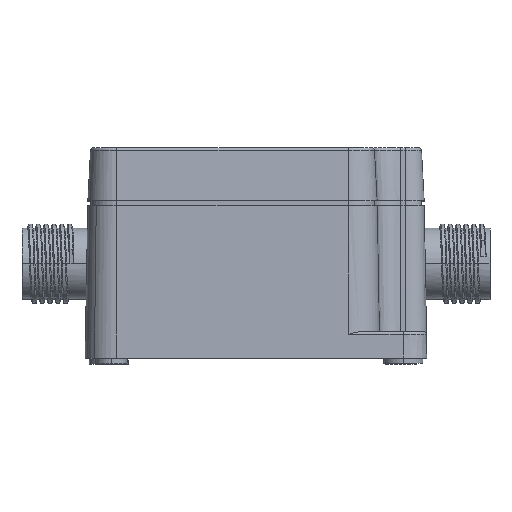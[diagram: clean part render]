
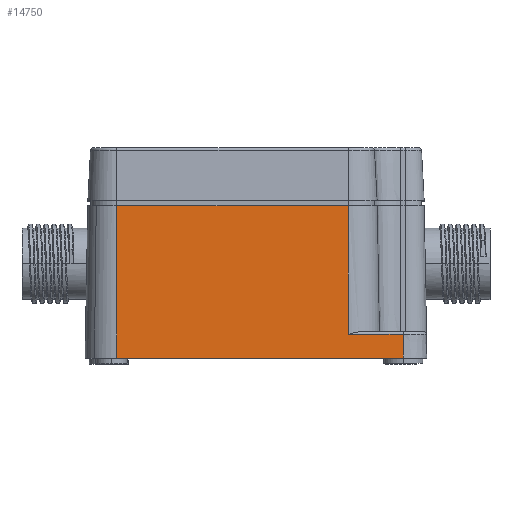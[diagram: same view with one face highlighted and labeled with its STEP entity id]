
A CAD part, top view. The second image highlights one B-rep face of the part: STEP entity #14750.
In plain terms, the highlighted planar face has unit normal (0, 0.018, 1).
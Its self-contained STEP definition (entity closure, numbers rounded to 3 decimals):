
#655 = DIRECTION ( 'PB1065',  ( 0., -1., 0.017 ) ) ;
#829 = DIRECTION ( 'PB1065',  ( 0., 1., -0.017 ) ) ;
#1027 = CARTESIAN_POINT ( 'PB1065',  ( -28., 0., 50. ) ) ;
#1202 = PLANE ( 'PB1065',  #10882 ) ;
#1782 = CARTESIAN_POINT ( 'PB1065',  ( 17.553, 4.509, 49.921 ) ) ;
#1830 = EDGE_LOOP ( 'PB1065', ( #17051, #18669, #12148, #11681, #12449, #18122 ) ) ;
#2747 = CARTESIAN_POINT ( 'PB1065',  ( 17.553, 30., 49.476 ) ) ;
#2912 = CARTESIAN_POINT ( 'PB1065',  ( 28., 30., 49.476 ) ) ;
#2923 = LINE ( 'PB1065', #7909, #5636 ) ;
#3677 = CARTESIAN_POINT ( 'PB1065',  ( -28., 29., 49.494 ) ) ;
#4261 = VECTOR ( 'PB1065', #829, 1000. ) ;
#5117 = VERTEX_POINT ( 'PB1065', #19444 ) ;
#5337 = EDGE_CURVE ( 'PB1065', #9824, #5117, #15737, .T. ) ;
#5376 = DIRECTION ( 'PB1065',  ( -1., 0., 0. ) ) ;
#5636 = VECTOR ( 'PB1065', #19743, 1000. ) ;
#6171 = FACE_OUTER_BOUND ( 'PB1065', #1830, .T. ) ;
#7503 = LINE ( 'PB1065', #14379, #17255 ) ;
#7802 = EDGE_CURVE ( 'PB1065', #16389, #14625, #2923, .T. ) ;
#7909 = CARTESIAN_POINT ( 'PB1065',  ( -28., 4.509, 49.921 ) ) ;
#8250 = EDGE_CURVE ( 'PB1065', #9990, #11078, #10343, .T. ) ;
#9663 = CARTESIAN_POINT ( 'PB1065',  ( -28., 30., 49.476 ) ) ;
#9666 = VECTOR ( 'PB1065', #655, 1000. ) ;
#9824 = VERTEX_POINT ( 'PB1065', #17382 ) ;
#9990 = VERTEX_POINT ( 'PB1065', #11026 ) ;
#10343 = LINE ( 'PB1065', #3677, #12856 ) ;
#10619 = EDGE_CURVE ( 'PB1065', #11078, #9824, #7503, .T. ) ;
#10689 = EDGE_CURVE ( 'PB1065', #14625, #9990, #17998, .T. ) ;
#10882 = AXIS2_PLACEMENT_3D ( 'PB1065', #9663, #21639, #19823 ) ;
#11026 = CARTESIAN_POINT ( 'PB1065',  ( 17.553, 29., 49.494 ) ) ;
#11078 = VERTEX_POINT ( 'PB1065', #13485 ) ;
#11681 = ORIENTED_EDGE ( 'PB1065', *, *, #8250, .T. ) ;
#12148 = ORIENTED_EDGE ( 'PB1065', *, *, #10689, .T. ) ;
#12449 = ORIENTED_EDGE ( 'PB1065', *, *, #10619, .T. ) ;
#12856 = VECTOR ( 'PB1065', #5376, 1000. ) ;
#13485 = CARTESIAN_POINT ( 'PB1065',  ( -26.477, 29., 49.494 ) ) ;
#14379 = CARTESIAN_POINT ( 'PB1065',  ( -26.477, 30., 49.476 ) ) ;
#14625 = VERTEX_POINT ( 'PB1065', #1782 ) ;
#14750 = ADVANCED_FACE ( 'PB1065', ( #6171 ), #1202, .T. ) ;
#14801 = DIRECTION ( 'PB1065',  ( 1., 0., 0. ) ) ;
#15580 = VECTOR ( 'PB1065', #14801, 1000. ) ;
#15737 = LINE ( 'PB1065', #1027, #15580 ) ;
#16389 = VERTEX_POINT ( 'PB1065', #19331 ) ;
#17051 = ORIENTED_EDGE ( 'PB1065', *, *, #20000, .F. ) ;
#17255 = VECTOR ( 'PB1065', #17548, 1000. ) ;
#17382 = CARTESIAN_POINT ( 'PB1065',  ( -26.477, 0., 50. ) ) ;
#17548 = DIRECTION ( 'PB1065',  ( 0., -1., 0.017 ) ) ;
#17998 = LINE ( 'PB1065', #2747, #4261 ) ;
#18122 = ORIENTED_EDGE ( 'PB1065', *, *, #5337, .T. ) ;
#18391 = LINE ( 'PB1065', #2912, #9666 ) ;
#18669 = ORIENTED_EDGE ( 'PB1065', *, *, #7802, .T. ) ;
#19331 = CARTESIAN_POINT ( 'PB1065',  ( 28., 4.509, 49.921 ) ) ;
#19444 = CARTESIAN_POINT ( 'PB1065',  ( 28., 0., 50. ) ) ;
#19743 = DIRECTION ( 'PB1065',  ( -1., 0., 0. ) ) ;
#19823 = DIRECTION ( 'PB1065',  ( 0., -1., 0.017 ) ) ;
#20000 = EDGE_CURVE ( 'PB1065', #16389, #5117, #18391, .T. ) ;
#21639 = DIRECTION ( 'PB1065',  ( 0., 0.017, 1. ) ) ;
